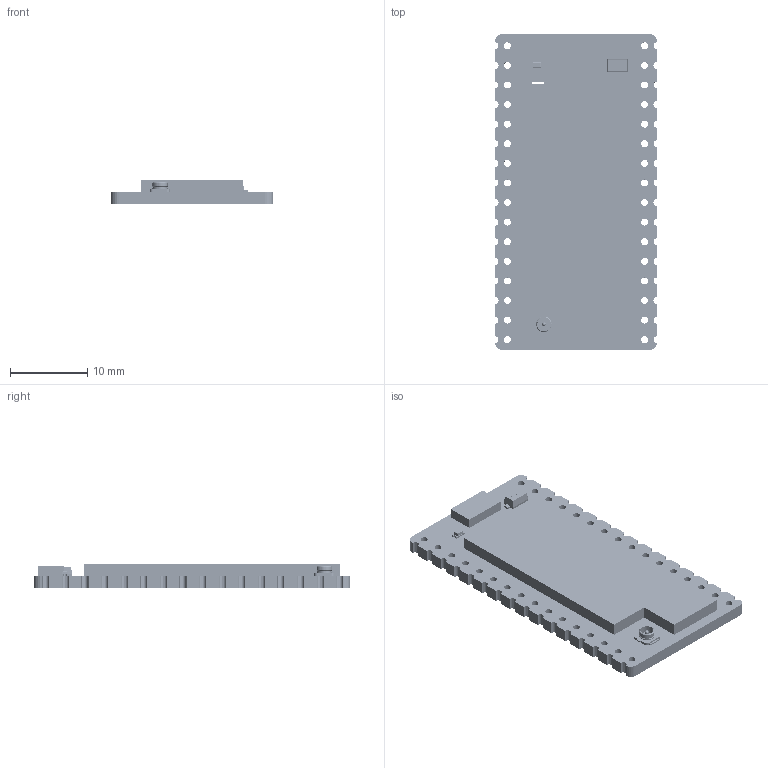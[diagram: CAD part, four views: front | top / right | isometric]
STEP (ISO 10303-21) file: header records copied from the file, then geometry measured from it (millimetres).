
FILE_DESCRIPTION((''),'2;1');
FILE_NAME('RP2040-LORA-LF_ASM','2026-06-01T10:47:47',('admin'),(''),'CREO PARAMETRIC BY PTC INC, 2021063','CREO PARAMETRIC BY PTC INC, 2021063','');
FILE_SCHEMA(('CONFIG_CONTROL_DESIGN','SHAPE_APPEARANCE_LAYERS_GROUPS'));
Products named in the file (133): BOARD; _1_10001; 3_1_A; 2_100; C_0402-672_AF0_ASM_ASM; C_0402-4045_AF0_ASM_ASM; C_0402_ASM; C5_ASM; USER_LIBRARY-RES_0603-0201_1; USER_LIBRARY-RES_0603-0201_2; USER_LIBRARY-RES_0603-0201_3; USER_LIBRARY-RES_0603-0201_4; USER_LIBRARY-RES_0603-0201_ASM; R5_ASM; USER_LIBRARY-LED_0603_R_P-77624; USER_LIBRARY-LED_0603_R_PAD004; USER_LIBRARY-LED_0603_R_FILLET; USER_LIBRARY-LED_0603_R_P-79979; USER_LIBRARY-LED_0603_R_PAD; USER_LIBRARY-LED_0603_R_ASM; LED1_ASM; C37_ASM; C36_ASM; C41_ASM; USER_LIBRARY-8MA3_1; USER_LIBRARY-8MA3_2; USER_LIBRARY-8MA3_ASM; U3_ASM; R8_ASM; R7_ASM; 2_A; 300; _10001; C_0201-1099_AF1_ASM_ASM; C_0201-4408_AF1_ASM_ASM; 3D_MODEL_ASM; C4_ASM; C3_ASM; C18_ASM; C8_ASM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
Assembly tree (187 placements, depth 8):
  RP2040-LORA-LF_ASM
    RP2040-LORA_ASM
      PCB_ASM
        BOARD
        C5_ASM
          C_0402_ASM
            C_0402-4045_AF0_ASM_ASM
              C_0402-672_AF0_ASM_ASM
                _1_10001
                3_1_A
                2_100
        R5_ASM
          USER_LIBRARY-RES_0603-0201_ASM
            USER_LIBRARY-RES_0603-0201_1
            USER_LIBRARY-RES_0603-0201_2
            USER_LIBRARY-RES_0603-0201_3
            USER_LIBRARY-RES_0603-0201_4
        LED1_ASM
          USER_LIBRARY-LED_0603_R_ASM
            USER_LIBRARY-LED_0603_R_P-77624
            USER_LIBRARY-LED_0603_R_PAD004
            USER_LIBRARY-LED_0603_R_FILLET
            USER_LIBRARY-LED_0603_R_P-79979
            USER_LIBRARY-LED_0603_R_PAD
        C37_ASM
          C_0402_ASM
            C_0402-4045_AF0_ASM_ASM
              C_0402-672_AF0_ASM_ASM
                _1_10001
                3_1_A
                2_100
        C36_ASM
          C_0402_ASM
            C_0402-4045_AF0_ASM_ASM
              C_0402-672_AF0_ASM_ASM
                _1_10001
                3_1_A
                2_100
        C41_ASM
          C_0402_ASM
            C_0402-4045_AF0_ASM_ASM
              C_0402-672_AF0_ASM_ASM
                _1_10001
                3_1_A
                2_100
        U3_ASM
          USER_LIBRARY-8MA3_ASM
            USER_LIBRARY-8MA3_1
            USER_LIBRARY-8MA3_2
        R8_ASM
          USER_LIBRARY-RES_0603-0201_ASM
            USER_LIBRARY-RES_0603-0201_1
            USER_LIBRARY-RES_0603-0201_2
            USER_LIBRARY-RES_0603-0201_3
            USER_LIBRARY-RES_0603-0201_4
        R7_ASM
          USER_LIBRARY-RES_0603-0201_ASM
            USER_LIBRARY-RES_0603-0201_1
            USER_LIBRARY-RES_0603-0201_2
            USER_LIBRARY-RES_0603-0201_3
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Bounding box: 21.02 x 41.02 x 3.2 mm (x, y, z)
Volume: 1585.1 mm3; surface area: 3697.2 mm2
Topology: 218 solids, 220 shells, 17766 faces, 46734 edges, 30505 vertices
Faces by surface type: plane 13368, extrusion 2582, cylinder 1348, sphere 392, bspline 62, torus 8, cone 6
Entity records: 177991 total; most frequent: CARTESIAN_POINT 32272, ORIENTED_EDGE 20822, DIRECTION 18879, PRESENTATION_STYLE_ASSIGNMENT 12403, EDGE_CURVE 10414, STYLED_ITEM 10345, CURVE_STYLE 10191, VECTOR 9313
